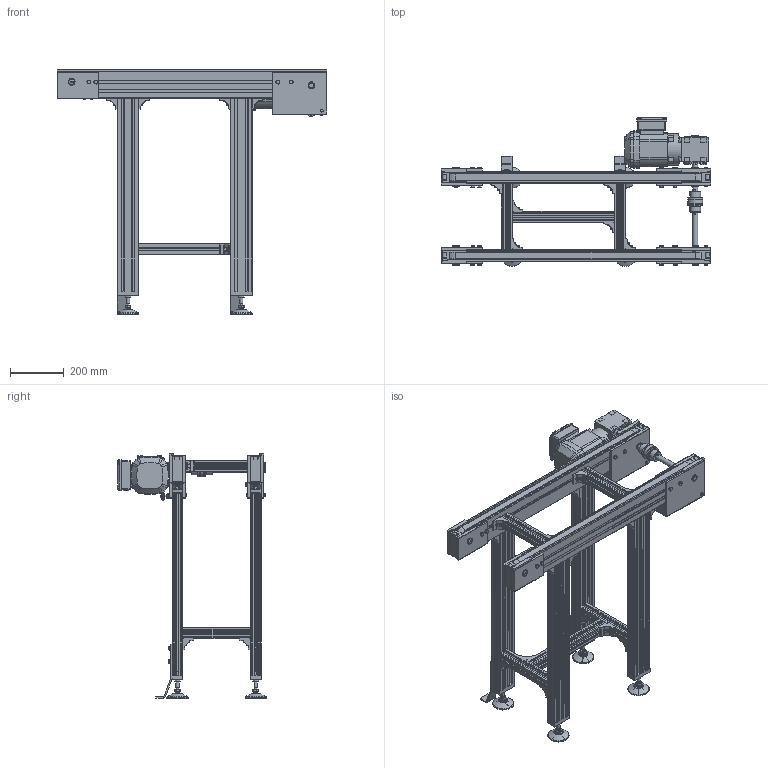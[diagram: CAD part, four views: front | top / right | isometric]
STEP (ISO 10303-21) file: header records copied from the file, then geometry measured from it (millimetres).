
FILE_DESCRIPTION(/* description */ (''),/* implementation_level */ '2;1');
FILE_NAME(/* name */ 'C:\Marketing\01_Versamove-SPU_STEP-Dateien-Homepage\VersamoveStandard\B320\Step-Dateien\Zahnriemenförderer_ZRF-P-2045_B320_L1000.stp',/* time_stamp */ '2016-12-19T13:51:44+01:00',/* author */ ('herbert.engels'),/* organization */ (''),/* preprocessor_version */ 'ST-DEVELOPER v15.6',/* originating_system */ 'Autodesk Inventor 2015',/* authorisation */ '');
FILE_SCHEMA (('CONFIG_CONTROL_DESIGN'));
Products named in the file (1): Zahnriemenförderer_ZRF-P-2045_B320_L1000
Bounding box: 1000 x 550.57 x 905 mm (x, y, z)
Volume: 18612192 mm3; surface area: 4460971.1 mm2
Topology: 5 solids, 5 shells, 4909 faces, 13259 edges, 8562 vertices
Faces by surface type: plane 3073, cylinder 1286, cone 361, torus 123, sphere 50, bspline 16
Full cylindrical faces by diameter (mm): 2 x8, 6 x12, 6.647 x8, 7.323 x4, 8 x70, 8.7 x4, 9 x8, 10 x4, 10.066 x1, 11.4 x22, 12 x8, 13 x72, 13.6 x8, 14 x40, 15 x8, 18 x4, 19 x4, 19.77 x4, 20 x13, 25 x1, 25.05 x4, 28 x1, 30 x2, 40 x2, 53 x1, 54 x2, 56 x3, 79 x4, 117 x1
Entity records: 158763 total; most frequent: CARTESIAN_POINT 31590, ORIENTED_EDGE 25214, DIRECTION 24798, EDGE_CURVE 12606, LINE 8404, VECTOR 8404, VERTEX_POINT 8402, AXIS2_PLACEMENT_3D 8197
